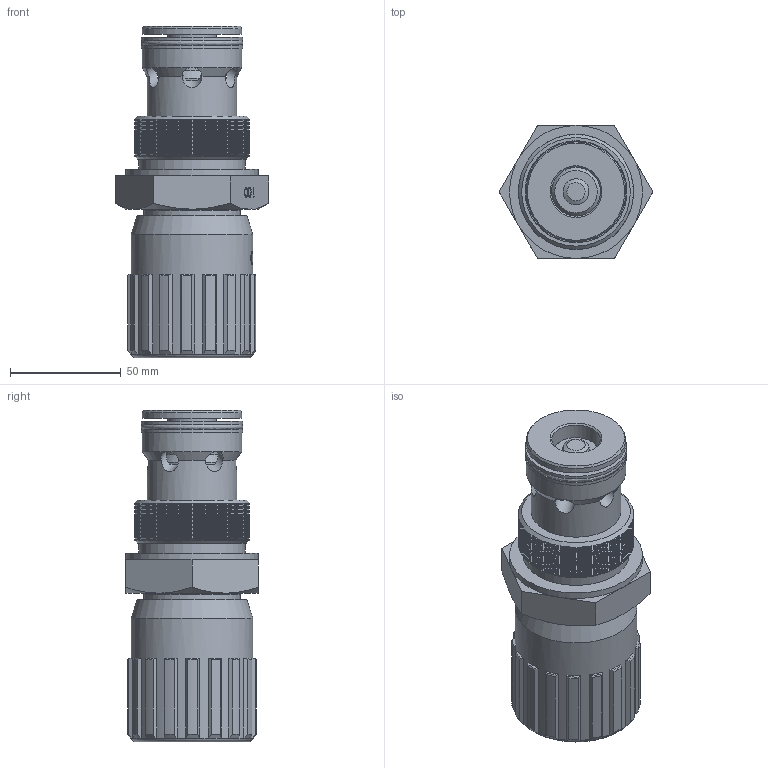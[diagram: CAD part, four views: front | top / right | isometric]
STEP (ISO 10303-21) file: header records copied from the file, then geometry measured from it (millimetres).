
FILE_DESCRIPTION (( 'STEP AP214' ), '1' );
FILE_NAME ('FT2267_5-100.STEP', '2015-04-15T13:22:47', ( 'cperuzzotti' ), ( 'Hewlett-Packard Company' ), 'SwSTEP 2.0', 'SolidWorks 2014', '' );
FILE_SCHEMA (( 'AUTOMOTIVE_DESIGN' ));
Length unit declared in the file: millimetre
Products named in the file (1): FT2267_5-100
Bounding box: 69.28 x 60 x 149.5 mm (x, y, z)
Surface area: 48134 mm2 (no closed solid volume)
Topology: 0 solids, 19 shells, 406 faces, 1432 edges, 1022 vertices
Faces by surface type: plane 177, cone 114, cylinder 83, bspline 31, torus 1
Full cylindrical faces by diameter (mm): 6 x7, 9 x6, 22 x1, 25.5 x1, 29.3 x1, 32.5 x1, 40.5 x1, 43.1 x1, 43.8 x1, 45 x2, 45.94 x2, 48 x1, 52 x27, 54.5 x1, 55 x1, 60 x1
Entity records: 23568 total; most frequent: CARTESIAN_POINT 7983, DIRECTION 2096, ORIENTED_EDGE 2059, EDGE_CURVE 1284, VERTEX_POINT 1000, AXIS2_PLACEMENT_3D 702, LINE 692, VECTOR 692
